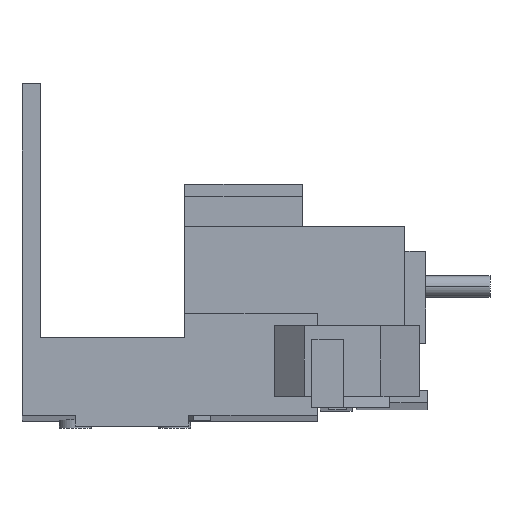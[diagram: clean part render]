
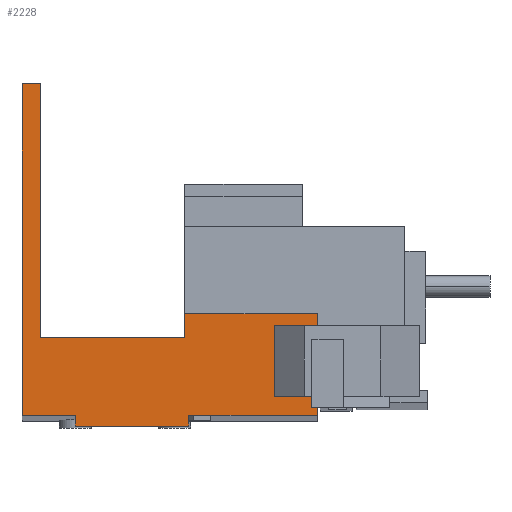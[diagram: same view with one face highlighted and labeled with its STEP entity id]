
A CAD part, front view. The second image highlights one B-rep face of the part: STEP entity #2228.
In plain terms, the highlighted planar face has unit normal (0, -1, 0.002).
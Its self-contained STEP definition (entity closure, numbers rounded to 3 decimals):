
#84 = DIRECTION ( 'NONE',  ( 0., -0.002, -1. ) ) ;
#91 = CARTESIAN_POINT ( 'NONE',  ( 41.6, -33.076, -36.181 ) ) ;
#131 = DIRECTION ( 'NONE',  ( -1., 0., 0. ) ) ;
#318 = CARTESIAN_POINT ( 'NONE',  ( 0., -33.076, -36.181 ) ) ;
#500 = CARTESIAN_POINT ( 'NONE',  ( 0., -32.978, 10.519 ) ) ;
#501 = DIRECTION ( 'NONE',  ( 0., 0.002, 1. ) ) ;
#510 = FACE_OUTER_BOUND ( 'NONE', #773, .T. ) ;
#515 = DIRECTION ( 'NONE',  ( 1., 0., 0. ) ) ;
#543 = CARTESIAN_POINT ( 'NONE',  ( 41.6, -33.046, -21.831 ) ) ;
#773 = EDGE_LOOP ( 'NONE', ( #5770, #5275, #5695, #5805, #5650, #5747, #5700, #5081, #5213, #5561, #5097, #5163 ) ) ;
#1550 = CARTESIAN_POINT ( 'NONE',  ( 0., -33.076, -36.181 ) ) ;
#1553 = DIRECTION ( 'NONE',  ( 0., 1., -0.002 ) ) ;
#1554 = DIRECTION ( 'NONE',  ( 1., 0., 0. ) ) ;
#1705 = PLANE ( 'NONE',  #3996 ) ;
#1944 = CARTESIAN_POINT ( 'NONE',  ( 0., -32.978, 10.519 ) ) ;
#2008 = CARTESIAN_POINT ( 'NONE',  ( 22.92, -33.046, -21.831 ) ) ;
#2091 = VECTOR ( 'NONE', #515, 1000. ) ;
#2109 = LINE ( 'NONE', #543, #2091 ) ;
#2228 = ADVANCED_FACE ( 'NONE', ( #510 ), #1705, .F. ) ;
#2641 = CARTESIAN_POINT ( 'NONE',  ( 0., -33.076, -36.181 ) ) ;
#2655 = CARTESIAN_POINT ( 'NONE',  ( 7.5, -33.076, -36.181 ) ) ;
#2658 = CARTESIAN_POINT ( 'NONE',  ( 7.5, -33.079, -37.681 ) ) ;
#2710 = CARTESIAN_POINT ( 'NONE',  ( 22.92, -33.053, -25.181 ) ) ;
#2712 = CARTESIAN_POINT ( 'NONE',  ( 23.5, -33.079, -37.681 ) ) ;
#2767 = VECTOR ( 'NONE', #6132, 1000. ) ;
#2769 = LINE ( 'NONE', #6137, #2767 ) ;
#2786 = CARTESIAN_POINT ( 'NONE',  ( 2.55, -32.978, 10.519 ) ) ;
#2789 = CARTESIAN_POINT ( 'NONE',  ( 23.5, -33.076, -36.181 ) ) ;
#2803 = CARTESIAN_POINT ( 'NONE',  ( 41.6, -33.046, -21.831 ) ) ;
#3010 = VECTOR ( 'NONE', #84, 1000. ) ;
#3080 = LINE ( 'NONE', #91, #3010 ) ;
#3098 = LINE ( 'NONE', #318, #3146 ) ;
#3146 = VECTOR ( 'NONE', #131, 1000. ) ;
#3384 = LINE ( 'NONE', #500, #3426 ) ;
#3426 = VECTOR ( 'NONE', #501, 1000. ) ;
#3702 = CARTESIAN_POINT ( 'NONE',  ( 7.5, -33.079, -37.681 ) ) ;
#3703 = DIRECTION ( 'NONE',  ( 1., 0., 0. ) ) ;
#3715 = CARTESIAN_POINT ( 'NONE',  ( 7.5, -33.079, -37.681 ) ) ;
#3724 = CARTESIAN_POINT ( 'NONE',  ( 2.55, -33.053, -25.181 ) ) ;
#3764 = CARTESIAN_POINT ( 'NONE',  ( 41.6, -33.076, -36.181 ) ) ;
#3810 = DIRECTION ( 'NONE',  ( 0., 0.002, 1. ) ) ;
#3820 = CARTESIAN_POINT ( 'NONE',  ( 23.5, -33.079, -37.681 ) ) ;
#3834 = DIRECTION ( 'NONE',  ( 0., 0.002, 1. ) ) ;
#3862 = CARTESIAN_POINT ( 'NONE',  ( 2., -33.053, -25.181 ) ) ;
#3863 = DIRECTION ( 'NONE',  ( 1., 0., 0. ) ) ;
#3996 = AXIS2_PLACEMENT_3D ( 'NONE', #1550, #1553, #1554 ) ;
#4169 = EDGE_CURVE ( 'NONE', #5339, #5012, #5860, .T. ) ;
#4176 = EDGE_CURVE ( 'NONE', #5523, #5284, #5867, .T. ) ;
#4177 = EDGE_CURVE ( 'NONE', #5220, #5339, #5866, .T. ) ;
#4189 = EDGE_CURVE ( 'NONE', #4958, #5372, #2769, .T. ) ;
#4200 = EDGE_CURVE ( 'NONE', #5364, #4958, #3080, .T. ) ;
#4227 = EDGE_CURVE ( 'NONE', #5641, #5427, #3098, .T. ) ;
#4390 = EDGE_CURVE ( 'NONE', #5427, #5220, #3384, .T. ) ;
#4414 = EDGE_CURVE ( 'NONE', #5284, #5364, #2109, .T. ) ;
#4505 = EDGE_CURVE ( 'NONE', #5012, #5523, #4909, .T. ) ;
#4513 = EDGE_CURVE ( 'NONE', #5715, #5641, #4819, .T. ) ;
#4518 = EDGE_CURVE ( 'NONE', #5715, #5470, #4860, .T. ) ;
#4522 = EDGE_CURVE ( 'NONE', #5470, #5372, #4859, .T. ) ;
#4819 = LINE ( 'NONE', #3715, #4855 ) ;
#4820 = VECTOR ( 'NONE', #3863, 1000. ) ;
#4850 = VECTOR ( 'NONE', #3810, 1000. ) ;
#4855 = VECTOR ( 'NONE', #3834, 1000. ) ;
#4859 = LINE ( 'NONE', #3820, #4850 ) ;
#4860 = LINE ( 'NONE', #3702, #4865 ) ;
#4865 = VECTOR ( 'NONE', #3703, 1000. ) ;
#4909 = LINE ( 'NONE', #3862, #4820 ) ;
#4958 = VERTEX_POINT ( 'NONE', #3764 ) ;
#5012 = VERTEX_POINT ( 'NONE', #3724 ) ;
#5081 = ORIENTED_EDGE ( 'NONE', *, *, #4522, .T. ) ;
#5097 = ORIENTED_EDGE ( 'NONE', *, *, #4414, .F. ) ;
#5163 = ORIENTED_EDGE ( 'NONE', *, *, #4176, .F. ) ;
#5213 = ORIENTED_EDGE ( 'NONE', *, *, #4189, .F. ) ;
#5220 = VERTEX_POINT ( 'NONE', #1944 ) ;
#5275 = ORIENTED_EDGE ( 'NONE', *, *, #4169, .F. ) ;
#5284 = VERTEX_POINT ( 'NONE', #2008 ) ;
#5339 = VERTEX_POINT ( 'NONE', #2786 ) ;
#5364 = VERTEX_POINT ( 'NONE', #2803 ) ;
#5372 = VERTEX_POINT ( 'NONE', #2789 ) ;
#5427 = VERTEX_POINT ( 'NONE', #2641 ) ;
#5470 = VERTEX_POINT ( 'NONE', #2712 ) ;
#5523 = VERTEX_POINT ( 'NONE', #2710 ) ;
#5561 = ORIENTED_EDGE ( 'NONE', *, *, #4200, .F. ) ;
#5641 = VERTEX_POINT ( 'NONE', #2655 ) ;
#5650 = ORIENTED_EDGE ( 'NONE', *, *, #4227, .F. ) ;
#5695 = ORIENTED_EDGE ( 'NONE', *, *, #4177, .F. ) ;
#5700 = ORIENTED_EDGE ( 'NONE', *, *, #4518, .T. ) ;
#5715 = VERTEX_POINT ( 'NONE', #2658 ) ;
#5747 = ORIENTED_EDGE ( 'NONE', *, *, #4513, .F. ) ;
#5770 = ORIENTED_EDGE ( 'NONE', *, *, #4505, .F. ) ;
#5805 = ORIENTED_EDGE ( 'NONE', *, *, #4390, .F. ) ;
#5856 = VECTOR ( 'NONE', #6178, 1000. ) ;
#5858 = VECTOR ( 'NONE', #6188, 1000. ) ;
#5860 = LINE ( 'NONE', #6191, #5858 ) ;
#5866 = LINE ( 'NONE', #6175, #5877 ) ;
#5867 = LINE ( 'NONE', #6294, #5856 ) ;
#5877 = VECTOR ( 'NONE', #6176, 1000. ) ;
#6132 = DIRECTION ( 'NONE',  ( -1., 0., 0. ) ) ;
#6137 = CARTESIAN_POINT ( 'NONE',  ( 0., -33.076, -36.181 ) ) ;
#6175 = CARTESIAN_POINT ( 'NONE',  ( 2.55, -32.978, 10.519 ) ) ;
#6176 = DIRECTION ( 'NONE',  ( 1., 0., 0. ) ) ;
#6178 = DIRECTION ( 'NONE',  ( 0., 0.002, 1. ) ) ;
#6188 = DIRECTION ( 'NONE',  ( 0., -0.002, -1. ) ) ;
#6191 = CARTESIAN_POINT ( 'NONE',  ( 2.55, -33.072, -34.53 ) ) ;
#6294 = CARTESIAN_POINT ( 'NONE',  ( 22.92, -33.046, -21.831 ) ) ;
